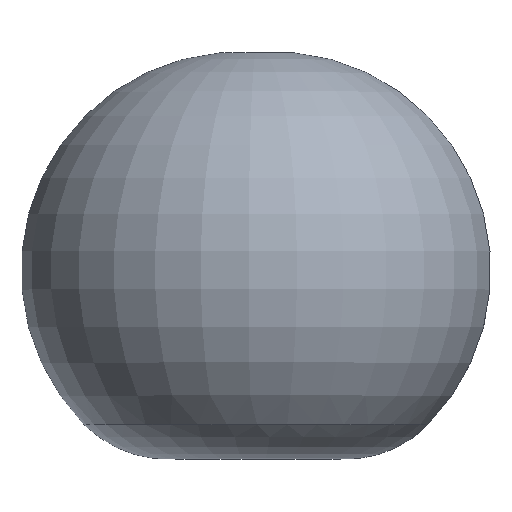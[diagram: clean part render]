
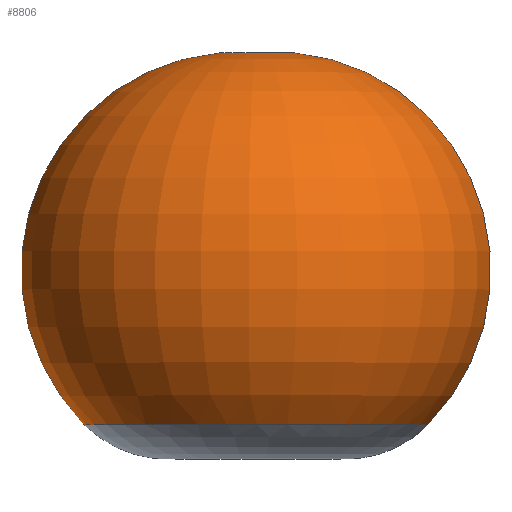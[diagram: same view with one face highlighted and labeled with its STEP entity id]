
A CAD part, top view. The second image highlights one B-rep face of the part: STEP entity #8806.
In plain terms, the highlighted toroidal (fillet/blend) face has major radius 50 mm and minor radius 580 mm.
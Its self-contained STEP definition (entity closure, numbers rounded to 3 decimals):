
#2685 = CARTESIAN_POINT ( 'NONE',  ( 453.132, -45.122, 79.899 ) ) ;
#7180 = AXIS2_PLACEMENT_3D ( 'NONE', #362380, #159172, #396627 ) ;
#8806 = ADVANCED_FACE ( 'NONE', ( #259601 ), #179951, .T. ) ;
#30474 = CARTESIAN_POINT ( 'NONE',  ( 0., -45.122, 0. ) ) ;
#37300 = VERTEX_POINT ( 'NONE', #156125 ) ;
#52233 = EDGE_LOOP ( 'NONE', ( #186797, #320303, #221195 ) ) ;
#64575 = DIRECTION ( 'NONE',  ( 1., 0., 0. ) ) ;
#65652 = DIRECTION ( 'NONE',  ( -0.174, 0., -0.985 ) ) ;
#106662 = CIRCLE ( 'NONE', #7180, 580. ) ;
#144709 = EDGE_CURVE ( 'NONE', #308363, #233996, #106662, .T. ) ;
#146209 = CIRCLE ( 'NONE', #220084, 460.122 ) ;
#156125 = CARTESIAN_POINT ( 'NONE',  ( 453.132, -45.122, -79.899 ) ) ;
#159172 = DIRECTION ( 'NONE',  ( 0.174, 0., -0.985 ) ) ;
#179951 = TOROIDAL_SURFACE ( 'NONE', #236356, 50., 580. ) ;
#186797 = ORIENTED_EDGE ( 'NONE', *, *, #215014, .F. ) ;
#193036 = CIRCLE ( 'NONE', #249036, 580. ) ;
#215014 = EDGE_CURVE ( 'NONE', #233996, #37300, #146209, .T. ) ;
#220084 = AXIS2_PLACEMENT_3D ( 'NONE', #30474, #267800, #64575 ) ;
#221195 = ORIENTED_EDGE ( 'NONE', *, *, #376920, .T. ) ;
#233996 = VERTEX_POINT ( 'NONE', #2685 ) ;
#236356 = AXIS2_PLACEMENT_3D ( 'NONE', #416577, #281364, #315503 ) ;
#249036 = AXIS2_PLACEMENT_3D ( 'NONE', #268873, #65652, #303004 ) ;
#259601 = FACE_OUTER_BOUND ( 'NONE', #52233, .T. ) ;
#267800 = DIRECTION ( 'NONE',  ( 0., -1., 0. ) ) ;
#268873 = CARTESIAN_POINT ( 'NONE',  ( 49.24, 365., -8.682 ) ) ;
#281364 = DIRECTION ( 'NONE',  ( 0., -1., 0. ) ) ;
#303004 = DIRECTION ( 'NONE',  ( -0.985, 0., 0.174 ) ) ;
#308363 = VERTEX_POINT ( 'NONE', #317199 ) ;
#315503 = DIRECTION ( 'NONE',  ( 1., 0., 0. ) ) ;
#317199 = CARTESIAN_POINT ( 'NONE',  ( 0., 942.841, 0. ) ) ;
#320303 = ORIENTED_EDGE ( 'NONE', *, *, #144709, .F. ) ;
#362380 = CARTESIAN_POINT ( 'NONE',  ( 49.24, 365., 8.682 ) ) ;
#376920 = EDGE_CURVE ( 'NONE', #308363, #37300, #193036, .T. ) ;
#396627 = DIRECTION ( 'NONE',  ( -0.985, 0., -0.174 ) ) ;
#416577 = CARTESIAN_POINT ( 'NONE',  ( 0., 365., 0. ) ) ;
